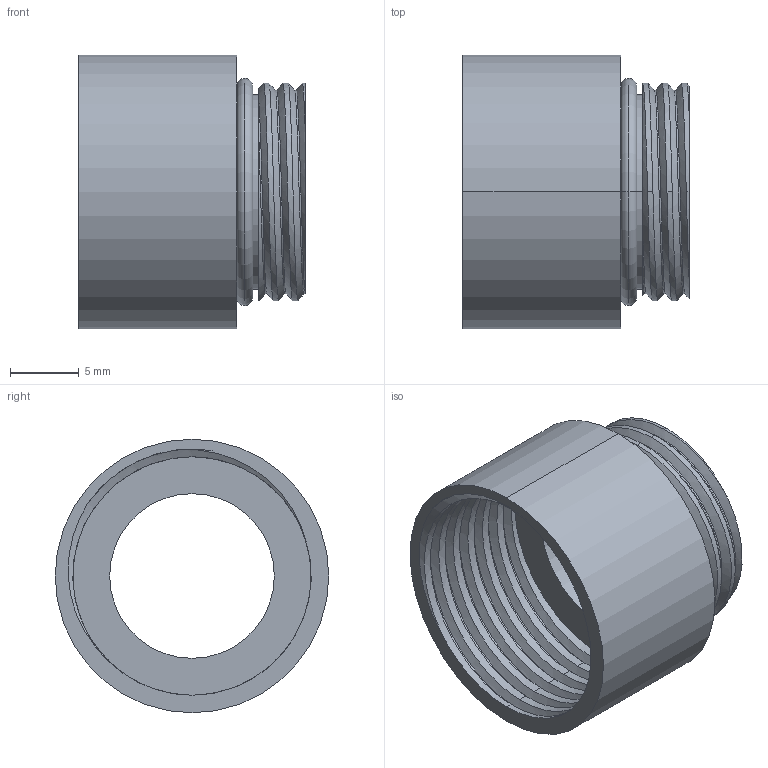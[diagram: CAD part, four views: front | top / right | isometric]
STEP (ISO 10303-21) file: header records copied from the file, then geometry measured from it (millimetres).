
FILE_DESCRIPTION (( 'STEP AP214' ), '1' );
FILE_NAME ('M16-PG11.STEP', '2006-08-15T14:13:38', ( 'Mencom User' ), ( 'Mencom Corporation' ), 'SwSTEP 2.0', 'SolidWorks 2006104', '' );
FILE_SCHEMA (( 'AUTOMOTIVE_DESIGN' ));
Length unit declared in the file: inch
Products named in the file (1): M16-PG11
Bounding box: 16.51 x 19.96 x 19.96 mm (x, y, z)
Volume: 1381 mm3; surface area: 2666 mm2
Topology: 2 solids, 2 shells, 48 faces, 119 edges, 78 vertices
Faces by surface type: cylinder 26, bspline 8, plane 8, torus 6
Entity records: 4049 total; most frequent: CARTESIAN_POINT 2957, ORIENTED_EDGE 238, DIRECTION 180, EDGE_CURVE 119, VERTEX_POINT 78, AXIS2_PLACEMENT_3D 75, EDGE_LOOP 55, FACE_OUTER_BOUND 48
